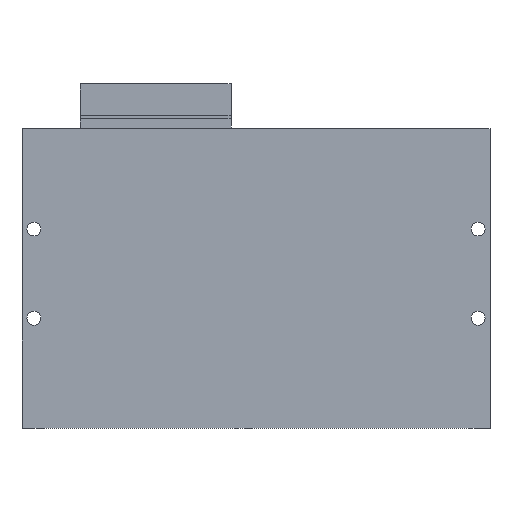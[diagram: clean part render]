
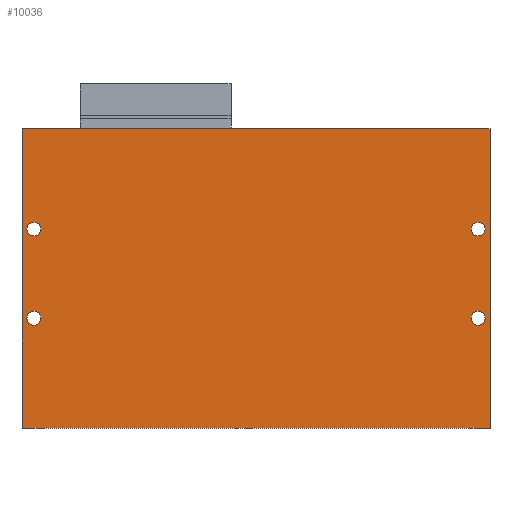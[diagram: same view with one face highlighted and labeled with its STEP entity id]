
A CAD part, front view. The second image highlights one B-rep face of the part: STEP entity #10036.
In plain terms, the highlighted planar face has unit normal (0, -1, 0).
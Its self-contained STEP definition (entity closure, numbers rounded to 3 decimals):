
#21 = VERTEX_POINT ( 'NONE', #10452 ) ;
#47 = CARTESIAN_POINT ( 'NONE',  ( -45.373, 0., 15.346 ) ) ;
#117 = FACE_BOUND ( 'NONE', #496, .T. ) ;
#219 = CIRCLE ( 'NONE', #9765, 1.75 ) ;
#221 = VERTEX_POINT ( 'NONE', #12174 ) ;
#243 = AXIS2_PLACEMENT_3D ( 'NONE', #6336, #7334, #1295 ) ;
#361 = VECTOR ( 'NONE', #12258, 1000. ) ;
#496 = EDGE_LOOP ( 'NONE', ( #9543, #12374 ) ) ;
#530 = VERTEX_POINT ( 'NONE', #9865 ) ;
#676 = DIRECTION ( 'NONE',  ( 0., 1., 0. ) ) ;
#682 = CARTESIAN_POINT ( 'NONE',  ( 69.627, 0., -36.604 ) ) ;
#732 = VERTEX_POINT ( 'NONE', #11341 ) ;
#1121 = CARTESIAN_POINT ( 'NONE',  ( 66.627, 0., -7.154 ) ) ;
#1228 = AXIS2_PLACEMENT_3D ( 'NONE', #11952, #9868, #8065 ) ;
#1295 = DIRECTION ( 'NONE',  ( 0., 0., 1. ) ) ;
#1310 = FACE_OUTER_BOUND ( 'NONE', #5834, .T. ) ;
#1356 = CIRCLE ( 'NONE', #11987, 1.75 ) ;
#1373 = CARTESIAN_POINT ( 'NONE',  ( 0., 0., 0. ) ) ;
#1485 = CARTESIAN_POINT ( 'NONE',  ( 66.627, 0., 13.596 ) ) ;
#2116 = VERTEX_POINT ( 'NONE', #7277 ) ;
#2427 = LINE ( 'NONE', #7274, #11291 ) ;
#2529 = AXIS2_PLACEMENT_3D ( 'NONE', #10014, #13013, #12946 ) ;
#2578 = VERTEX_POINT ( 'NONE', #4385 ) ;
#2628 = DIRECTION ( 'NONE',  ( 0., 0., 1. ) ) ;
#2639 = ORIENTED_EDGE ( 'NONE', *, *, #10281, .T. ) ;
#2747 = AXIS2_PLACEMENT_3D ( 'NONE', #1485, #4409, #5594 ) ;
#2848 = DIRECTION ( 'NONE',  ( 0., 1., 0. ) ) ;
#3028 = ORIENTED_EDGE ( 'NONE', *, *, #4156, .T. ) ;
#3190 = CARTESIAN_POINT ( 'NONE',  ( -45.373, 0., -8.904 ) ) ;
#3369 = DIRECTION ( 'NONE',  ( 0., 0., 1. ) ) ;
#3434 = EDGE_LOOP ( 'NONE', ( #8839, #2639 ) ) ;
#3578 = CIRCLE ( 'NONE', #6341, 1.75 ) ;
#3729 = DIRECTION ( 'NONE',  ( 0., 0., 1. ) ) ;
#3955 = VERTEX_POINT ( 'NONE', #6787 ) ;
#3957 = CARTESIAN_POINT ( 'NONE',  ( 66.627, 0., -8.904 ) ) ;
#4156 = EDGE_CURVE ( 'NONE', #2578, #21, #1356, .T. ) ;
#4199 = VECTOR ( 'NONE', #7002, 1000. ) ;
#4385 = CARTESIAN_POINT ( 'NONE',  ( -45.373, 0., -10.654 ) ) ;
#4409 = DIRECTION ( 'NONE',  ( 0., 1., 0. ) ) ;
#4421 = AXIS2_PLACEMENT_3D ( 'NONE', #9787, #676, #3729 ) ;
#4956 = DIRECTION ( 'NONE',  ( 0., 0., 1. ) ) ;
#5006 = LINE ( 'NONE', #11075, #4199 ) ;
#5166 = FACE_BOUND ( 'NONE', #9493, .T. ) ;
#5181 = CARTESIAN_POINT ( 'NONE',  ( 66.627, 0., -10.654 ) ) ;
#5231 = DIRECTION ( 'NONE',  ( 0., 1., 0. ) ) ;
#5272 = CIRCLE ( 'NONE', #4421, 1.75 ) ;
#5302 = EDGE_CURVE ( 'NONE', #12339, #7036, #5272, .T. ) ;
#5594 = DIRECTION ( 'NONE',  ( 0., 0., 1. ) ) ;
#5696 = EDGE_CURVE ( 'NONE', #7036, #12339, #3578, .T. ) ;
#5707 = VERTEX_POINT ( 'NONE', #47 ) ;
#5793 = CARTESIAN_POINT ( 'NONE',  ( -48.373, 0., -36.604 ) ) ;
#5834 = EDGE_LOOP ( 'NONE', ( #6673, #5866, #10172, #10266 ) ) ;
#5866 = ORIENTED_EDGE ( 'NONE', *, *, #6100, .F. ) ;
#5890 = CIRCLE ( 'NONE', #1228, 1.75 ) ;
#5894 = EDGE_CURVE ( 'NONE', #7685, #221, #11619, .T. ) ;
#6056 = EDGE_CURVE ( 'NONE', #21, #2578, #5890, .T. ) ;
#6100 = EDGE_CURVE ( 'NONE', #6552, #7685, #5006, .T. ) ;
#6169 = DIRECTION ( 'NONE',  ( 0., 1., 0. ) ) ;
#6336 = CARTESIAN_POINT ( 'NONE',  ( -45.373, 0., 13.596 ) ) ;
#6341 = AXIS2_PLACEMENT_3D ( 'NONE', #3957, #13148, #4956 ) ;
#6345 = ORIENTED_EDGE ( 'NONE', *, *, #5696, .T. ) ;
#6421 = EDGE_CURVE ( 'NONE', #530, #2116, #11853, .T. ) ;
#6552 = VERTEX_POINT ( 'NONE', #682 ) ;
#6673 = ORIENTED_EDGE ( 'NONE', *, *, #5894, .F. ) ;
#6787 = CARTESIAN_POINT ( 'NONE',  ( -45.373, 0., 11.846 ) ) ;
#7002 = DIRECTION ( 'NONE',  ( -1., 0., 0. ) ) ;
#7036 = VERTEX_POINT ( 'NONE', #1121 ) ;
#7061 = ORIENTED_EDGE ( 'NONE', *, *, #6056, .T. ) ;
#7238 = DIRECTION ( 'NONE',  ( 0., 0., 1. ) ) ;
#7274 = CARTESIAN_POINT ( 'NONE',  ( 69.627, 0., -36.604 ) ) ;
#7277 = CARTESIAN_POINT ( 'NONE',  ( 66.627, 0., 11.846 ) ) ;
#7334 = DIRECTION ( 'NONE',  ( 0., 1., 0. ) ) ;
#7421 = FACE_BOUND ( 'NONE', #3434, .T. ) ;
#7616 = CIRCLE ( 'NONE', #2529, 1.75 ) ;
#7685 = VERTEX_POINT ( 'NONE', #5793 ) ;
#8038 = AXIS2_PLACEMENT_3D ( 'NONE', #1373, #5231, #3369 ) ;
#8065 = DIRECTION ( 'NONE',  ( 0., 0., 1. ) ) ;
#8426 = PLANE ( 'NONE',  #8038 ) ;
#8616 = CARTESIAN_POINT ( 'NONE',  ( -48.373, 0., -36.604 ) ) ;
#8675 = ORIENTED_EDGE ( 'NONE', *, *, #5302, .T. ) ;
#8839 = ORIENTED_EDGE ( 'NONE', *, *, #6421, .T. ) ;
#8949 = CIRCLE ( 'NONE', #243, 1.75 ) ;
#9198 = EDGE_CURVE ( 'NONE', #5707, #3955, #8949, .T. ) ;
#9478 = DIRECTION ( 'NONE',  ( 0., 0., -1. ) ) ;
#9493 = EDGE_LOOP ( 'NONE', ( #7061, #3028 ) ) ;
#9543 = ORIENTED_EDGE ( 'NONE', *, *, #9198, .T. ) ;
#9693 = EDGE_CURVE ( 'NONE', #221, #732, #10189, .T. ) ;
#9765 = AXIS2_PLACEMENT_3D ( 'NONE', #13151, #2848, #12958 ) ;
#9787 = CARTESIAN_POINT ( 'NONE',  ( 66.627, 0., -8.904 ) ) ;
#9865 = CARTESIAN_POINT ( 'NONE',  ( 66.627, 0., 15.346 ) ) ;
#9868 = DIRECTION ( 'NONE',  ( 0., 1., 0. ) ) ;
#10014 = CARTESIAN_POINT ( 'NONE',  ( 66.627, 0., 13.596 ) ) ;
#10036 = ADVANCED_FACE ( 'NONE', ( #117, #12370, #7421, #5166, #1310 ), #8426, .F. ) ;
#10172 = ORIENTED_EDGE ( 'NONE', *, *, #11611, .F. ) ;
#10189 = LINE ( 'NONE', #11259, #361 ) ;
#10266 = ORIENTED_EDGE ( 'NONE', *, *, #9693, .F. ) ;
#10281 = EDGE_CURVE ( 'NONE', #2116, #530, #7616, .T. ) ;
#10452 = CARTESIAN_POINT ( 'NONE',  ( -45.373, 0., -7.154 ) ) ;
#11075 = CARTESIAN_POINT ( 'NONE',  ( -48.373, 0., -36.604 ) ) ;
#11237 = VECTOR ( 'NONE', #2628, 1000. ) ;
#11259 = CARTESIAN_POINT ( 'NONE',  ( -48.373, 0., 38.896 ) ) ;
#11291 = VECTOR ( 'NONE', #9478, 1000. ) ;
#11341 = CARTESIAN_POINT ( 'NONE',  ( 69.627, 0., 38.896 ) ) ;
#11611 = EDGE_CURVE ( 'NONE', #732, #6552, #2427, .T. ) ;
#11619 = LINE ( 'NONE', #8616, #11237 ) ;
#11853 = CIRCLE ( 'NONE', #2747, 1.75 ) ;
#11952 = CARTESIAN_POINT ( 'NONE',  ( -45.373, 0., -8.904 ) ) ;
#11987 = AXIS2_PLACEMENT_3D ( 'NONE', #3190, #6169, #7238 ) ;
#12174 = CARTESIAN_POINT ( 'NONE',  ( -48.373, 0., 38.896 ) ) ;
#12258 = DIRECTION ( 'NONE',  ( 1., 0., 0. ) ) ;
#12339 = VERTEX_POINT ( 'NONE', #5181 ) ;
#12370 = FACE_BOUND ( 'NONE', #12622, .T. ) ;
#12374 = ORIENTED_EDGE ( 'NONE', *, *, #12493, .T. ) ;
#12493 = EDGE_CURVE ( 'NONE', #3955, #5707, #219, .T. ) ;
#12622 = EDGE_LOOP ( 'NONE', ( #6345, #8675 ) ) ;
#12946 = DIRECTION ( 'NONE',  ( 0., 0., 1. ) ) ;
#12958 = DIRECTION ( 'NONE',  ( 0., 0., 1. ) ) ;
#13013 = DIRECTION ( 'NONE',  ( 0., 1., 0. ) ) ;
#13148 = DIRECTION ( 'NONE',  ( 0., 1., 0. ) ) ;
#13151 = CARTESIAN_POINT ( 'NONE',  ( -45.373, 0., 13.596 ) ) ;
